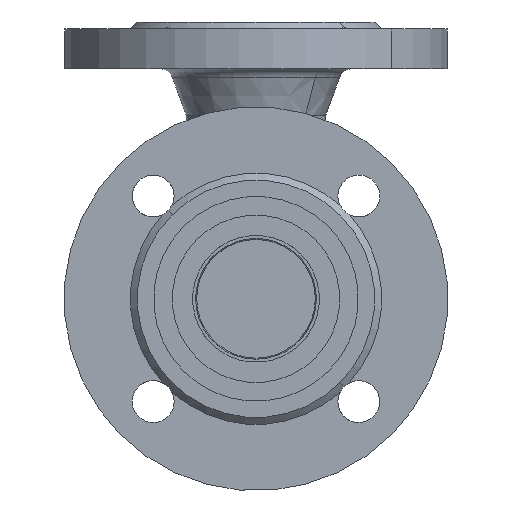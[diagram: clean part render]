
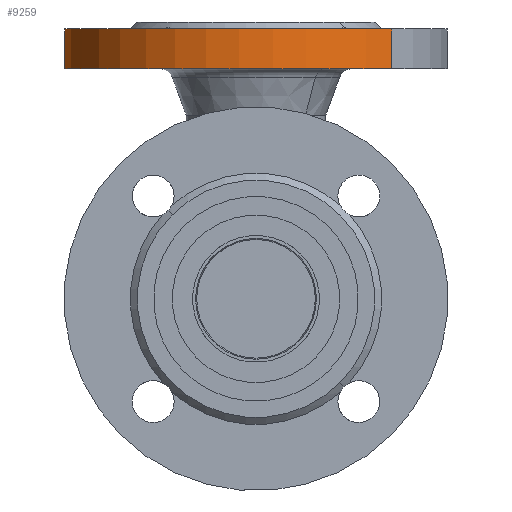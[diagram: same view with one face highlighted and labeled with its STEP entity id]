
A CAD part, front view. The second image highlights one B-rep face of the part: STEP entity #9259.
In plain terms, the highlighted cylindrical face has radius 82.5 mm (diameter 165 mm), a partial arc.
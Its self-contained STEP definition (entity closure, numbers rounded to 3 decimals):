
#131 = EDGE_CURVE ( 'NONE', #5821, #18431, #14794, .T. ) ;
#17756 = EDGE_CURVE ( 'NONE', #6686, #18431, #1992, .T. ) ;
#17920 = ORIENTED_EDGE ( 'NONE', *, *, #17756, .F. ) ;
#1992 = CIRCLE ( 'NONE', #1993, 82.5 ) ;
#1993 = AXIS2_PLACEMENT_3D ( 'NONE', #1994, #2000, #2001 ) ;
#1994 = CARTESIAN_POINT ( 'NONE',  ( 0., 20., 0. ) ) ;
#2000 = DIRECTION ( 'NONE',  ( 0., 1., 0. ) ) ;
#2001 = DIRECTION ( 'NONE',  ( -1., 0., 0. ) ) ;
#18431 = VERTEX_POINT ( 'NONE', #11816 ) ;
#5315 = ORIENTED_EDGE ( 'NONE', *, *, #131, .T. ) ;
#5821 = VERTEX_POINT ( 'NONE', #13037 ) ;
#6021 = EDGE_CURVE ( 'NONE', #15883, #6686, #13134, .T. ) ;
#6180 = ORIENTED_EDGE ( 'NONE', *, *, #6021, .F. ) ;
#6686 = VERTEX_POINT ( 'NONE', #13529 ) ;
#9062 = EDGE_LOOP ( 'NONE', ( #15472, #5315, #17920, #6180 ) ) ;
#9259 = ADVANCED_FACE ( 'NONE', ( #14732 ), #14733, .T. ) ;
#11816 = CARTESIAN_POINT ( 'NONE',  ( 82.5, 20., 0. ) ) ;
#13037 = CARTESIAN_POINT ( 'NONE',  ( 82.5, 3., 0. ) ) ;
#13134 = LINE ( 'NONE', #13135, #13136 ) ;
#13135 = CARTESIAN_POINT ( 'NONE',  ( -82.5, 75., 0. ) ) ;
#13136 = VECTOR ( 'NONE', #13137, 1000. ) ;
#13137 = DIRECTION ( 'NONE',  ( 0., 1., 0. ) ) ;
#13529 = CARTESIAN_POINT ( 'NONE',  ( -82.5, 20., 0. ) ) ;
#13737 = CARTESIAN_POINT ( 'NONE',  ( -82.5, 3., 0. ) ) ;
#13836 = CIRCLE ( 'NONE', #13837, 82.5 ) ;
#13837 = AXIS2_PLACEMENT_3D ( 'NONE', #13838, #13839, #13840 ) ;
#13838 = CARTESIAN_POINT ( 'NONE',  ( 0., 3., 0. ) ) ;
#13839 = DIRECTION ( 'NONE',  ( 0., 1., 0. ) ) ;
#13840 = DIRECTION ( 'NONE',  ( -1., 0., 0. ) ) ;
#14732 = FACE_OUTER_BOUND ( 'NONE', #9062, .T. ) ;
#14733 = CYLINDRICAL_SURFACE ( 'NONE', #14734, 82.5 ) ;
#14734 = AXIS2_PLACEMENT_3D ( 'NONE', #14735, #14736, #14737 ) ;
#14735 = CARTESIAN_POINT ( 'NONE',  ( 0., 75., 0. ) ) ;
#14736 = DIRECTION ( 'NONE',  ( 0., 1., 0. ) ) ;
#14737 = DIRECTION ( 'NONE',  ( -1., 0., 0. ) ) ;
#14794 = LINE ( 'NONE', #14795, #14796 ) ;
#14795 = CARTESIAN_POINT ( 'NONE',  ( 82.5, 75., 0. ) ) ;
#14796 = VECTOR ( 'NONE', #14797, 1000. ) ;
#14797 = DIRECTION ( 'NONE',  ( 0., 1., 0. ) ) ;
#15472 = ORIENTED_EDGE ( 'NONE', *, *, #16103, .T. ) ;
#15883 = VERTEX_POINT ( 'NONE', #13737 ) ;
#16103 = EDGE_CURVE ( 'NONE', #15883, #5821, #13836, .T. ) ;
